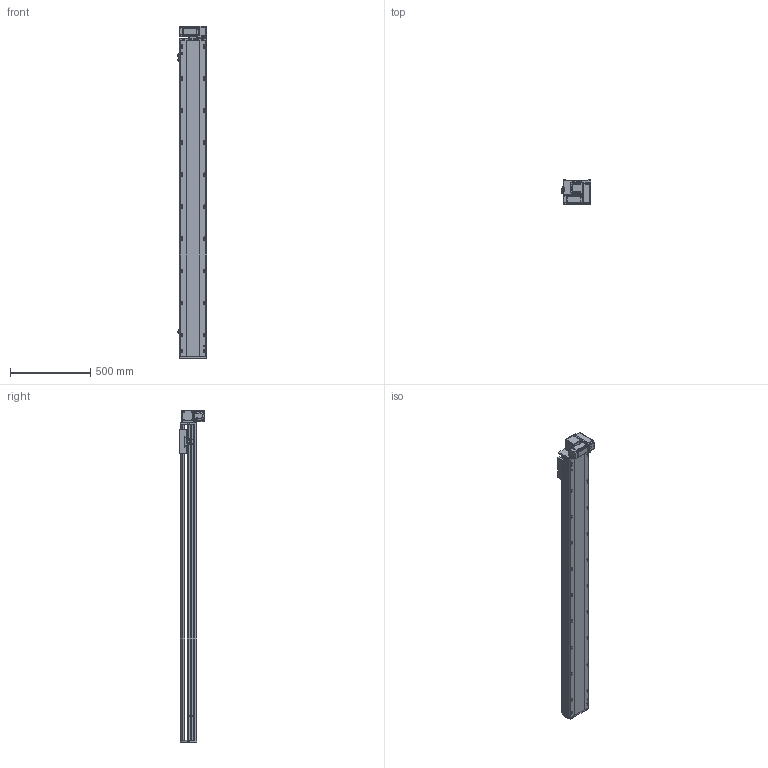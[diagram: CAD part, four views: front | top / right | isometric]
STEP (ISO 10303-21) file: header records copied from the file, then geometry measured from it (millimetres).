
FILE_DESCRIPTION (( 'STEP AP214' ), '1' );
FILE_NAME ('RTB17S-XX-1700-RM-M40-C4.STEP', '2025-12-11T08:21:55', ( '' ), ( '' ), 'SwSTEP 2.0', 'SolidWorks 2018', '' );
FILE_SCHEMA (( 'AUTOMOTIVE_DESIGN' ));
Length unit declared in the file: millimetre
Products named in the file (14): RTB17S-XX-1700-RM-M40-C4; RTB17S-RM-々湍釱蚾饜-400W^RTB17S-XX-XX-RM-M40-C4; RTB17-R-011菁釱^RTB17S-XX-XX-RM-M40-C4; RTB17S-L-007奻裔^RTB17S-XX-XX-RM-M40-C4; RTB14-L-017P^RTB17S-RM-々湍釱蚾饜-400W_RTB17S-XX-XX-RM-M40-C4; RTB14-L-005P--轴承塑胶压盖^RTB17S-RM-皮带座装配-400W_RTB17S-XX-XX-RM-M40-C4; RTH13-BL-012覜茼え俋离^RTB17S-XX-XX-RM-M40-C4; RTB14-L-008-M20--萇儂啣^RTB17S-RM-々湍釱蚾饜-400W_RTB17S-XX-XX-RM-M40-C4; RTB17S-L-014-T20--々湍釱^RTB17S-RM-々湍釱蚾饜-400W_RTB17S-XX-XX-RM-M40-C4; RTB17S-L-004佪裝蹟譫蟀諉釱^RTB17S-XX-XX-RM-M40-C4; RTB14-L-018P^RTB17S-RM-々湍釱蚾饜-400W_RTB17S-XX-XX-RM-M40-C4; 400W侜督萇儂^RTB17S-XX-XX-RM-M40-C4; RTB17S-L-001耜醱啣^RTB17S-XX-XX-RM-M40-C4; OMRON EE-SX672 传感器^RTB17S-XX-XX-RM-M40-C4
Assembly tree (16 placements, depth 3):
  RTB17S-XX-1700-RM-M40-C4
    RTB17-R-011菁釱^RTB17S-XX-XX-RM-M40-C4
    RTB17S-L-007奻裔^RTB17S-XX-XX-RM-M40-C4
    OMRON EE-SX672 传感器^RTB17S-XX-XX-RM-M40-C4  x3
    RTB17S-L-001耜醱啣^RTB17S-XX-XX-RM-M40-C4
    400W侜督萇儂^RTB17S-XX-XX-RM-M40-C4
    RTB17S-L-004佪裝蹟譫蟀諉釱^RTB17S-XX-XX-RM-M40-C4
    RTH13-BL-012覜茼え俋离^RTB17S-XX-XX-RM-M40-C4
    RTB17S-RM-々湍釱蚾饜-400W^RTB17S-XX-XX-RM-M40-C4
      RTB17S-L-014-T20--々湍釱^RTB17S-RM-々湍釱蚾饜-400W_RTB17S-XX-XX-RM-M40-C4
      RTB14-L-005P--轴承塑胶压盖^RTB17S-RM-皮带座装配-400W_RTB17S-XX-XX-RM-M40-C4
      RTB14-L-008-M20--萇儂啣^RTB17S-RM-々湍釱蚾饜-400W_RTB17S-XX-XX-RM-M40-C4
      RTB14-L-017P^RTB17S-RM-々湍釱蚾饜-400W_RTB17S-XX-XX-RM-M40-C4  x2
      RTB14-L-018P^RTB17S-RM-々湍釱蚾饜-400W_RTB17S-XX-XX-RM-M40-C4
Bounding box: 183.5 x 156.5 x 2072.5 mm (x, y, z)
Volume: 18080178.4 mm3; surface area: 2121468.1 mm2
Topology: 15 solids, 15 shells, 2269 faces, 6303 edges, 4113 vertices
Faces by surface type: plane 1076, cylinder 745, bspline 301, cone 139, torus 8
Entity records: 65705 total; most frequent: CARTESIAN_POINT 18508, ORIENTED_EDGE 9450, DIRECTION 8756, EDGE_CURVE 4725, VERTEX_POINT 3101, AXIS2_PLACEMENT_3D 3031, LINE 2694, VECTOR 2694
